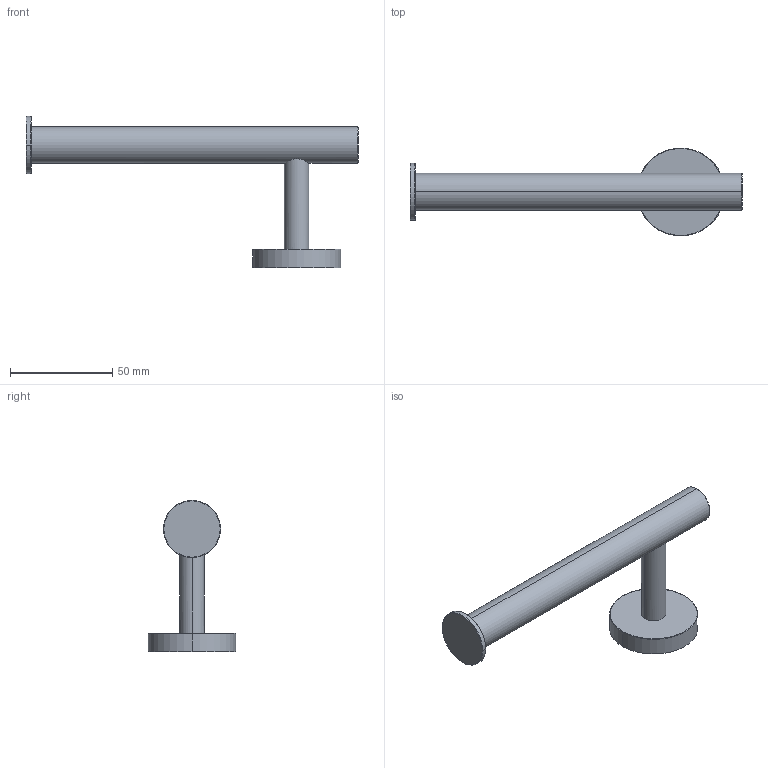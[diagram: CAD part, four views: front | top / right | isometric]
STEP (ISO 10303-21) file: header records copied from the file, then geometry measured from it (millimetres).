
FILE_DESCRIPTION((''),'2;1');
FILE_NAME('8931121_ASM','2024-04-10T16:51:27',('carloff'),(''),'CREO PARAMETRIC BY PTC INC, 2022014','CREO PARAMETRIC BY PTC INC, 2022014','');
FILE_SCHEMA(('CONFIG_CONTROL_DESIGN'));
Length unit declared in the file: millimetre
Products named in the file (2): A750210343; 8931121_ASM
Assembly tree (1 placements, depth 2):
  8931121_ASM
    A750210343
Bounding box: 162.5 x 43 x 74 mm (x, y, z)
Volume: 60131.4 mm3; surface area: 15978.9 mm2
Topology: 1 solids, 1 shells, 21 faces, 41 edges, 24 vertices
Faces by surface type: cylinder 8, torus 8, plane 5
Entity records: 644 total; most frequent: CARTESIAN_POINT 125, DIRECTION 117, ORIENTED_EDGE 82, AXIS2_PLACEMENT_3D 54, EDGE_CURVE 41, CIRCLE 30, VERTEX_POINT 24, EDGE_LOOP 23
